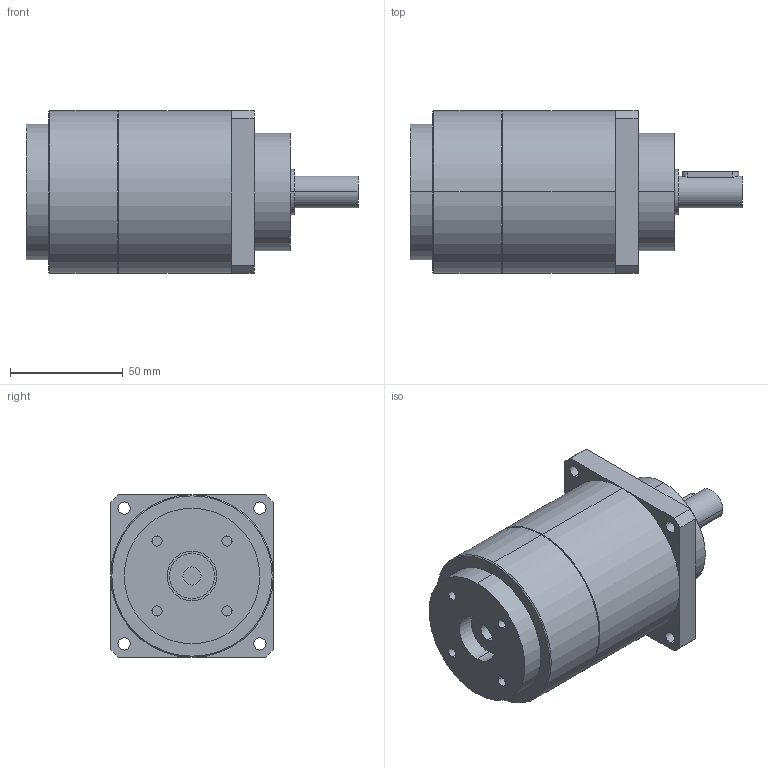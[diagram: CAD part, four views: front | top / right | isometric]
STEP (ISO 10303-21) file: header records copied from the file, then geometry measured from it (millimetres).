
FILE_DESCRIPTION(('CoCreate Modeling STEP Export'),'2;1');
FILE_NAME('GPT75_ig-9-12-16-20-25-28-35-40-50-70-100_14_B5T_8_P01.stp','2014-08-27T13:41:24',(''),(''),'CoCreate Modeling STEP processor for AP214 (Solid Model)','CoCreate Modeling 16.00C 25-Feb-2009 (C) Parametric Technology GmbH','');
FILE_SCHEMA(('AUTOMOTIVE_DESIGN { 1 0 10303 214 1 1 1 1 }'));
Length unit declared in the file: millimetre
Products named in the file (2): GPT75_ig-9-12-16-20-25-28-35-40-50-70-100_14_B5T_8_P01
Assembly tree (1 placements, depth 2):
  GPT75_ig-9-12-16-20-25-28-35-40-50-70-100_14_B5T_8_P01
    GPT75_ig-9-12-16-20-25-28-35-40-50-70-100_14_B5T_8_P01
Bounding box: 147 x 72 x 72 mm (x, y, z)
Volume: 442655.6 mm3; surface area: 40489.2 mm2
Topology: 1 solids, 1 shells, 72 faces, 170 edges, 113 vertices
Faces by surface type: cylinder 42, plane 26, cone 4
Entity records: 2206 total; most frequent: CARTESIAN_POINT 670, ORIENTED_EDGE 340, DIRECTION 270, EDGE_CURVE 170, VERTEX_POINT 113, AXIS2_PLACEMENT_3D 101, EDGE_LOOP 93, FACE_OUTER_BOUND 72
